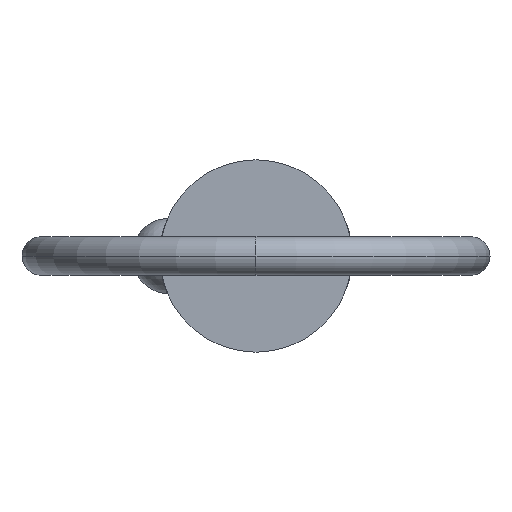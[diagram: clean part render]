
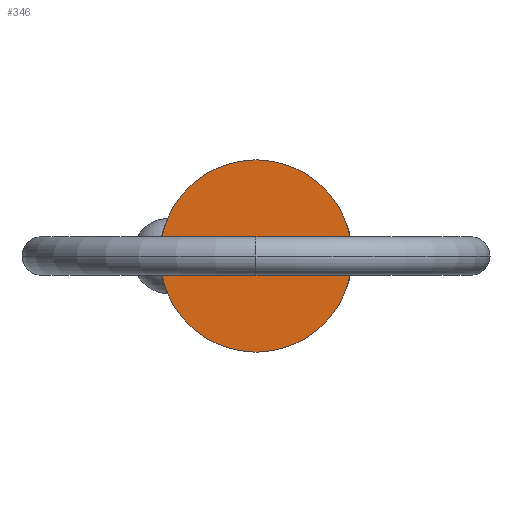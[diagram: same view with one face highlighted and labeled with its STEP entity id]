
A CAD part, left-side view. The second image highlights one B-rep face of the part: STEP entity #346.
In plain terms, the highlighted planar face has unit normal (-1, 0, 0).
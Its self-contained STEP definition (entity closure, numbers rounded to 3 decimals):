
#51 = EDGE_CURVE ( 'NONE', #511, #351, #529, .T. ) ;
#90 = DIRECTION ( 'NONE',  ( -1., 0., 0. ) ) ;
#123 = DIRECTION ( 'NONE',  ( 0., 0., -1. ) ) ;
#179 = CARTESIAN_POINT ( 'NONE',  ( 0., 0., 7.11 ) ) ;
#186 = EDGE_CURVE ( 'NONE', #351, #511, #192, .T. ) ;
#192 = CIRCLE ( 'NONE', #836, 7.11 ) ;
#230 = AXIS2_PLACEMENT_3D ( 'NONE', #652, #365, #708 ) ;
#308 = PLANE ( 'NONE',  #457 ) ;
#324 = DIRECTION ( 'NONE',  ( 1., 0., 0. ) ) ;
#346 = ADVANCED_FACE ( 'NONE', ( #377 ), #308, .T. ) ;
#351 = VERTEX_POINT ( 'NONE', #637 ) ;
#364 = DIRECTION ( 'NONE',  ( 0., 0., 1. ) ) ;
#365 = DIRECTION ( 'NONE',  ( 1., 0., 0. ) ) ;
#377 = FACE_OUTER_BOUND ( 'NONE', #526, .T. ) ;
#457 = AXIS2_PLACEMENT_3D ( 'NONE', #779, #90, #364 ) ;
#491 = ORIENTED_EDGE ( 'NONE', *, *, #51, .F. ) ;
#511 = VERTEX_POINT ( 'NONE', #179 ) ;
#526 = EDGE_LOOP ( 'NONE', ( #823, #491 ) ) ;
#529 = CIRCLE ( 'NONE', #230, 7.11 ) ;
#637 = CARTESIAN_POINT ( 'NONE',  ( 0., 0., -7.11 ) ) ;
#652 = CARTESIAN_POINT ( 'NONE',  ( 0., 0., 0. ) ) ;
#673 = CARTESIAN_POINT ( 'NONE',  ( 0., 0., 0. ) ) ;
#708 = DIRECTION ( 'NONE',  ( 0., 0., -1. ) ) ;
#779 = CARTESIAN_POINT ( 'NONE',  ( 0., 0., 0. ) ) ;
#823 = ORIENTED_EDGE ( 'NONE', *, *, #186, .F. ) ;
#836 = AXIS2_PLACEMENT_3D ( 'NONE', #673, #324, #123 ) ;
